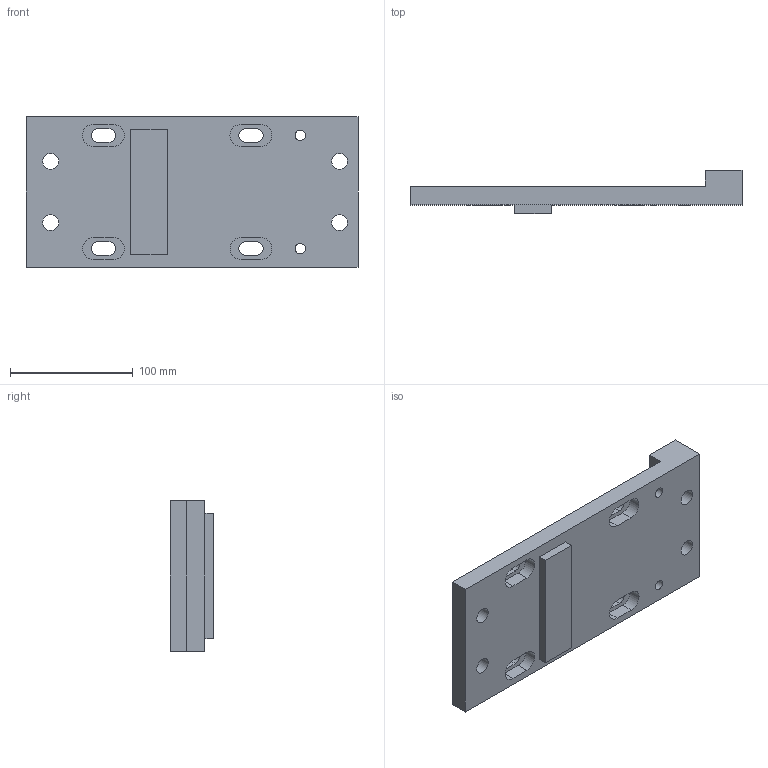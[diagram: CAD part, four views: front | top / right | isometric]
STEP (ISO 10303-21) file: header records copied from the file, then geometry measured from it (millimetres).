
FILE_DESCRIPTION(('STEP AP203'), '1');
FILE_NAME('ÒÏÏÔ1800.01.01.06.002 Ïëèòà êðåïåæíàÿ', '', ('UNSPECIFIED'), ('UNSPECIFIED'), 'C3D Converter', 'C3D Toolkit', '');
FILE_SCHEMA(('CONFIG_CONTROL_DESIGN'));
Length unit declared in the file: millimetre
Products named in the file (1): ТППФ1800.01.01.06.002
Bounding box: 270 x 35 x 122 mm (x, y, z)
Volume: 524376.5 mm3; surface area: 89457.6 mm2
Topology: 1 solids, 1 shells, 57 faces, 148 edges, 98 vertices
Faces by surface type: plane 33, cylinder 22, cone 2
Full cylindrical faces by diameter (mm): 8.376 x2, 13 x4
Entity records: 2248 total; most frequent: DIRECTION 302, CARTESIAN_POINT 296, ORIENTED_EDGE 280, EDGE_CURVE 140, AXIS2_PLACEMENT_3D 104, VERTEX_POINT 98, LINE 94, VECTOR 94
